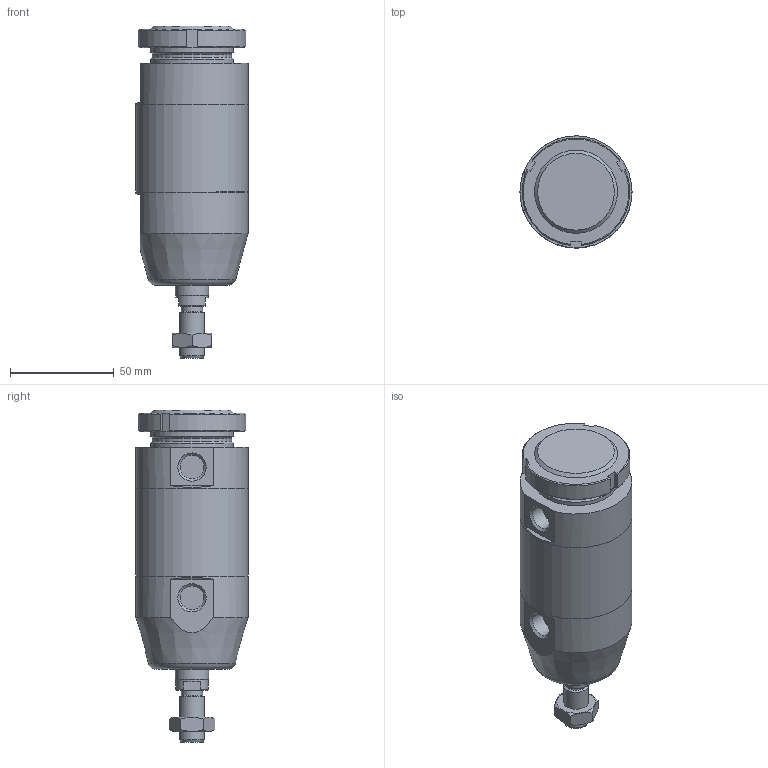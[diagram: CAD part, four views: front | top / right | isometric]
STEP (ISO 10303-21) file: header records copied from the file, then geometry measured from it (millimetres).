
FILE_DESCRIPTION(/* description */ (''),/* implementation_level */ '2;1');
FILE_NAME(/* name */ 'I:\Area Tecnica\Documenti\A-Manieri\_Inventor\12X\12X#B_###_####_#_#\12XAB_050_0000_#_#.stp',/* time_stamp */ '2015-04-27T16:24:58+02:00',/* author */ ('maniean1'),/* organization */ ('Pneumax S.p.A.'),/* preprocessor_version */ 'ST-DEVELOPER v15.2',/* originating_system */ 'Autodesk Inventor 2014',/* authorisation */ '');
FILE_SCHEMA (('AUTOMOTIVE_DESIGN { 1 0 10303 214 3 1 1 }'));
Length unit declared in the file: millimetre
Products named in the file (7): C1250_619-0000; 12X50_613; S12X50_0000; 12X_50_11; 12X50_620; G12X_050_05; 12XAB_050_0000_#_#
Bounding box: 54 x 54 x 160 mm (x, y, z)
Volume: 266837.8 mm3; surface area: 57065.4 mm2
Topology: 6 solids, 6 shells, 80 faces, 175 edges, 112 vertices
Faces by surface type: plane 40, cylinder 20, cone 19, torus 1
Full cylindrical faces by diameter (mm): 10.2 x1, 11.4 x2, 12 x2, 14 x1, 15.6 x1, 16 x1, 38.2 x1, 40 x3, 50 x2, 54 x3
Entity records: 2134 total; most frequent: CARTESIAN_POINT 399, DIRECTION 359, ORIENTED_EDGE 282, AXIS2_PLACEMENT_3D 154, EDGE_CURVE 141, EDGE_LOOP 122, VERTEX_POINT 107, ADVANCED_FACE 80
